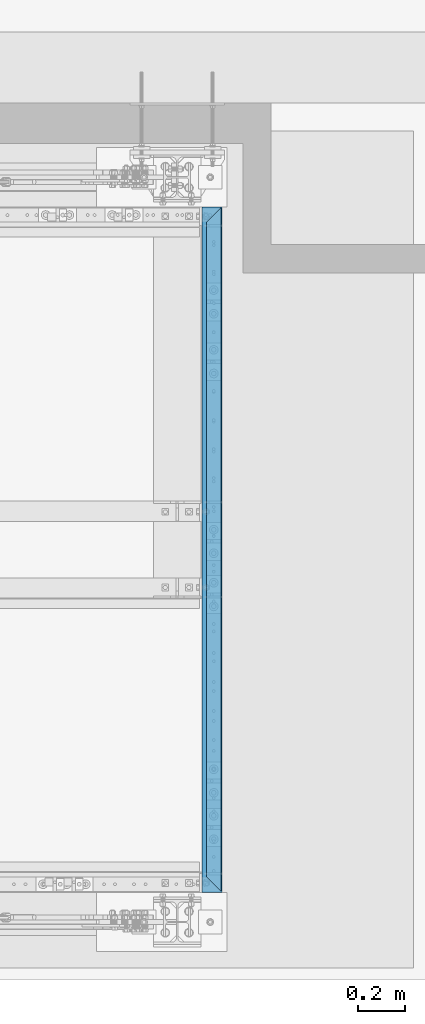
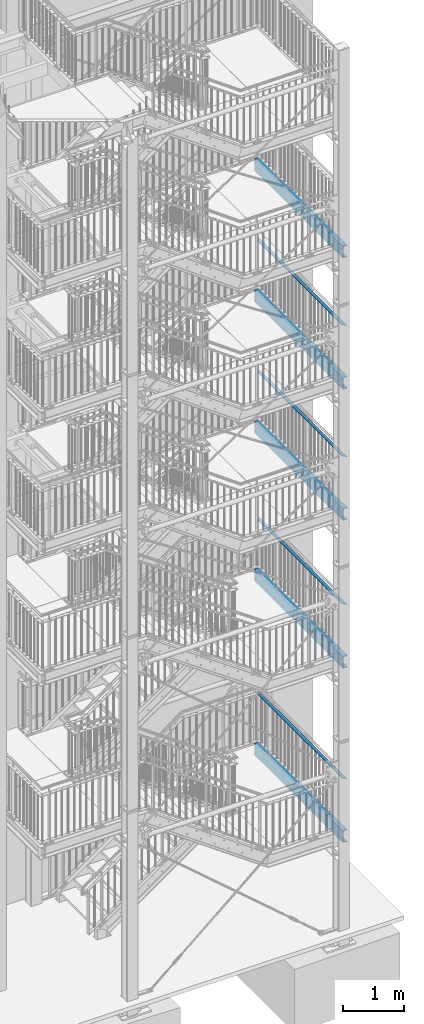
# One storey, part 129 of 825: 9 beams, 70 openings.
"""IFC2X3 building model written with IfcOpenShell, lengths in millimetres."""

from ifc_helpers import new_model, entity, si_unit, converted_unit, frame, frame_2d, origin, origin_with_axes, origin_2d, place, context, project, spatial, rectangle, circle, u_section, extrude, clip, halfspace, material, element, save


model = new_model("IFC2X3")

# Units and contexts
model_context = context("Model", 3, precision=1e-09, world=origin_with_axes())
ifc_project = project(units=[si_unit("LENGTHUNIT", "METRE", prefix="MILLI"), si_unit("AREAUNIT", "SQUARE_METRE"), si_unit("VOLUMEUNIT", "CUBIC_METRE"), converted_unit("PLANEANGLEUNIT", "DEGREE", entity("IfcPlaneAngleMeasure", 0.01745329), si_unit("PLANEANGLEUNIT", "RADIAN"), dimensions=[0, 0, 0, 0, 0, 0, 0])], contexts=[model_context])

# Site, building, storey
site_placement = place(None, origin_with_axes())
site = spatial("IfcSite", under=ifc_project, at=site_placement, Name="Cnopf'sche Kinderklinik", CompositionType="ELEMENT")
building_placement = place(site_placement, origin_with_axes())
building = spatial("IfcBuilding", under=site, at=building_placement, Name="Struktur 1", CompositionType="ELEMENT")
storey_placement = place(building_placement, origin_with_axes())
storey = spatial("IfcBuildingStorey", under=building, at=storey_placement, Name="Default Storey", CompositionType="ELEMENT", Elevation=0.0)

# Beams
ifc_material = material(Name="S235JR")
beam_1_placement = place(None, frame((9021.713402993, 7399.748598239, 12279.3000003), z_axis=(0.0, 1.0, 0.0), x_axis=(0.0, 0.0, -1.0)))
element("IfcBeam", 1, at=beam_1_placement, inside=storey, material=ifc_material, Name="Railing_Kneerail_Landing#1008", ObjectType="Railing_Kneerail_Landing#1008", context=model_context, shape_type="Clipping", body=[
    clip(clip(extrude(rectangle(XDim=10.0, YDim=60.0, at=origin_2d()), origin(), (0.0, 0.0, -1.0), 2916.02325267), halfspace(frame((12279.3000003, 8189.224480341, -8232.23752089), z_axis=(0.0, -0.707106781, -0.707106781), x_axis=(0.0, -0.707106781, 0.707106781)), True)), halfspace(frame((12279.3000003, 2247.487508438, -625.522703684), z_axis=(0.0, -0.707106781, 0.707106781), x_axis=(0.0, 0.707106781, 0.707106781)), True)),
])
beam_2_placement = place(None, frame((9021.713402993, 7399.748598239, 9649.8), z_axis=(0.0, 1.0, 0.0), x_axis=(0.0, 0.0, -1.0)))
element("IfcBeam", 2, at=beam_2_placement, inside=storey, material=ifc_material, Name="Railing_Kneerail_Landing#1011", ObjectType="Railing_Kneerail_Landing#1011", context=model_context, shape_type="Clipping", body=[
    clip(clip(extrude(rectangle(XDim=10.0, YDim=60.0, at=origin_2d()), origin(), (0.0, 0.0, -1.0), 2916.02325267), halfspace(frame((9649.8, 2247.487508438, -625.522703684), z_axis=(0.0, -0.707106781, 0.707106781), x_axis=(0.0, 0.707106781, 0.707106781)), True)), halfspace(frame((9649.8, 8189.224480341, -8232.23752089), z_axis=(0.0, -0.707106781, -0.707106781), x_axis=(0.0, -0.707106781, 0.707106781)), True)),
])
beam_3_placement = place(None, frame((9021.713402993, 7399.748598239, 6688.6947367), z_axis=(0.0, 1.0, 0.0), x_axis=(0.0, 0.0, -1.0)))
element("IfcBeam", 3, at=beam_3_placement, inside=storey, material=ifc_material, Name="Railing_Kneerail_Landing#1008", ObjectType="Railing_Kneerail_Landing#1008", context=model_context, shape_type="Clipping", body=[
    clip(clip(extrude(rectangle(XDim=10.0, YDim=60.0, at=origin_2d()), origin(), (0.0, 0.0, -1.0), 2916.02325267), halfspace(frame((6688.6947367, 8189.224480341, -8232.23752089), z_axis=(0.0, -0.707106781, -0.707106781), x_axis=(0.0, -0.707106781, 0.707106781)), True)), halfspace(frame((6688.6947367, 2247.487508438, -625.522703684), z_axis=(0.0, -0.707106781, 0.707106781), x_axis=(0.0, 0.707106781, 0.707106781)), True)),
])
beam_4_placement = place(None, frame((9021.713402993, 7399.748598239, 3194.8526312), z_axis=(0.0, 1.0, 0.0), x_axis=(0.0, 0.0, -1.0)))
element("IfcBeam", 4, at=beam_4_placement, inside=storey, material=ifc_material, Name="Railing_Kneerail_Landing#1006", ObjectType="Railing_Kneerail_Landing#1006", context=model_context, shape_type="Clipping", body=[
    clip(clip(extrude(rectangle(XDim=10.0, YDim=60.0, at=origin_2d()), origin(), (0.0, 0.0, -1.0), 2916.02325267), halfspace(frame((3194.8526312, 8189.224480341, -8232.23752089), z_axis=(0.0, -0.707106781, -0.707106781), x_axis=(0.0, -0.707106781, 0.707106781)), True)), halfspace(frame((3194.8526312, 2247.487508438, -625.522703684), z_axis=(0.0, -0.707106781, 0.707106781), x_axis=(0.0, 0.707106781, 0.707106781)), True)),
])

# Beam, openings
beam_5_placement = place(None, frame((8994.013402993, 7391.736971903, 2061.0526312), z_axis=(0.0, -1.0, 0.0), x_axis=(1.0, 0.0, 0.0)))
beam_5 = element("IfcBeam", 5, at=beam_5_placement, inside=storey, material=ifc_material, Name="Girder", ObjectType="Girder", context=model_context, shape_type="SweptSolid", body=[
    extrude(u_section(Depth=240.0, FlangeWidth=85.0, WebThickness=9.5, FlangeThickness=13.0, FilletRadius=13.0, EdgeRadius=6.5, FlangeSlope=4.574, at=frame_2d((20.2, 0.0))), origin(), (0.0, 0.0, 1.0), 2900.0),
])
opening_1_placement = place(beam_5_placement, frame((27.7, 120.5, 2471.461175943), z_axis=(0.0, 1.0, 0.0), x_axis=(-1.0, 0.0, 0.0)))
element("IfcOpeningElement", 6, at=opening_1_placement, cuts=beam_5, ObjectType="Opening", context=model_context, shape_type="SweptSolid", body=[
    extrude(circle(Radius=7.001, at=frame_2d((0.0, 7.001), x_axis=(1.0, 0.0))), origin(), (0.0, 0.0, -1.0), 14.0),
])
opening_2_placement = place(beam_5_placement, frame((27.7, 120.5, 2371.461175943), z_axis=(0.0, 1.0, 0.0), x_axis=(-1.0, 0.0, 0.0)))
element("IfcOpeningElement", 7, at=opening_2_placement, cuts=beam_5, ObjectType="Opening", context=model_context, shape_type="SweptSolid", body=[
    extrude(circle(Radius=7.001, at=frame_2d((0.0, 7.001), x_axis=(1.0, 0.0))), origin(), (0.0, 0.0, -1.0), 14.0),
])
opening_3_placement = place(beam_5_placement, frame((27.7, 120.5, 1458.38405822), z_axis=(0.0, 1.0, 0.0), x_axis=(-1.0, 0.0, 0.0)))
element("IfcOpeningElement", 8, at=opening_3_placement, cuts=beam_5, ObjectType="Opening", context=model_context, shape_type="SweptSolid", body=[
    extrude(circle(Radius=7.001, at=frame_2d((0.0, 7.001), x_axis=(1.0, 0.0))), origin(), (0.0, 0.0, -1.0), 14.0),
])
opening_4_placement = place(beam_5_placement, frame((27.7, 120.5, 1358.38405822), z_axis=(0.0, 1.0, 0.0), x_axis=(-1.0, 0.0, 0.0)))
element("IfcOpeningElement", 9, at=opening_4_placement, cuts=beam_5, ObjectType="Opening", context=model_context, shape_type="SweptSolid", body=[
    extrude(circle(Radius=7.001, at=frame_2d((0.0, 7.001), x_axis=(1.0, 0.0))), origin(), (0.0, 0.0, -1.0), 14.0),
])
opening_5_placement = place(beam_5_placement, frame((27.7, 120.5, 445.306940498), z_axis=(0.0, 1.0, 0.0), x_axis=(-1.0, 0.0, 0.0)))
element("IfcOpeningElement", 10, at=opening_5_placement, cuts=beam_5, ObjectType="Opening", context=model_context, shape_type="SweptSolid", body=[
    extrude(circle(Radius=7.001, at=frame_2d((0.0, 7.001), x_axis=(1.0, 0.0))), origin(), (0.0, 0.0, -1.0), 14.0),
])
opening_6_placement = place(beam_5_placement, frame((27.7, 120.5, 345.306940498), z_axis=(0.0, 1.0, 0.0), x_axis=(-1.0, 0.0, 0.0)))
element("IfcOpeningElement", 11, at=opening_6_placement, cuts=beam_5, ObjectType="Opening", context=model_context, shape_type="SweptSolid", body=[
    extrude(circle(Radius=7.001, at=frame_2d((0.0, 7.001), x_axis=(1.0, 0.0))), origin(), (0.0, 0.0, -1.0), 14.0),
])
opening_7_placement = place(beam_5_placement, frame((-12.3, 0.0, 1610.0), z_axis=(-1.0, 0.0, 0.0), x_axis=(0.0, 1.0, 0.0)))
element("IfcOpeningElement", 12, at=opening_7_placement, cuts=beam_5, ObjectType="Opening", context=model_context, shape_type="SweptSolid", body=[
    extrude(circle(Radius=9.001, at=frame_2d((60.0, 0.0), x_axis=(1.0, 0.0))), origin(), (0.0, 0.0, 1.0), 10.5),
])
opening_8_placement = place(beam_5_placement, frame((-12.3, 0.0, 1610.0), z_axis=(-1.0, 0.0, 0.0), x_axis=(0.0, 1.0, 0.0)))
element("IfcOpeningElement", 13, at=opening_8_placement, cuts=beam_5, ObjectType="Opening", context=model_context, shape_type="SweptSolid", body=[
    extrude(circle(Radius=9.001, at=frame_2d((-60.0, 0.0), x_axis=(1.0, 0.0))), origin(), (0.0, 0.0, 1.0), 10.5),
])
opening_9_placement = place(beam_5_placement, frame((-12.3, 0.0, 40.0), z_axis=(-1.0, 0.0, 0.0), x_axis=(0.0, 1.0, 0.0)))
element("IfcOpeningElement", 14, at=opening_9_placement, cuts=beam_5, ObjectType="Opening", context=model_context, shape_type="SweptSolid", body=[
    extrude(circle(Radius=9.001, at=frame_2d((60.0, 0.0), x_axis=(1.0, 0.0))), origin(), (0.0, 0.0, 1.0), 10.5),
])
opening_10_placement = place(beam_5_placement, frame((-12.3, 0.0, 40.0), z_axis=(-1.0, 0.0, 0.0), x_axis=(0.0, 1.0, 0.0)))
element("IfcOpeningElement", 15, at=opening_10_placement, cuts=beam_5, ObjectType="Opening", context=model_context, shape_type="SweptSolid", body=[
    extrude(circle(Radius=9.001, at=frame_2d((-60.0, 0.0), x_axis=(1.0, 0.0))), origin(), (0.0, 0.0, 1.0), 10.5),
])
opening_11_placement = place(beam_5_placement, frame((-12.3, 50.999, 1290.0), z_axis=(1.0, 0.0, 0.0), x_axis=(0.0, 1.0, 0.0)))
element("IfcOpeningElement", 16, at=opening_11_placement, cuts=beam_5, ObjectType="Opening", context=model_context, shape_type="SweptSolid", body=[
    extrude(circle(Radius=9.001, at=frame_2d((9.001, 0.0), x_axis=(1.0, 0.0))), origin(), (0.0, 0.0, -1.0), 10.5),
])
opening_12_placement = place(beam_5_placement, frame((-12.3, -69.001, 1290.0), z_axis=(1.0, 0.0, 0.0), x_axis=(0.0, 1.0, 0.0)))
element("IfcOpeningElement", 17, at=opening_12_placement, cuts=beam_5, ObjectType="Opening", context=model_context, shape_type="SweptSolid", body=[
    extrude(circle(Radius=9.001, at=frame_2d((9.001, 0.0), x_axis=(1.0, 0.0))), origin(), (0.0, 0.0, -1.0), 10.5),
])
opening_13_placement = place(beam_5_placement, frame((-12.3, 50.999, 2860.0), z_axis=(1.0, 0.0, 0.0), x_axis=(0.0, 1.0, 0.0)))
element("IfcOpeningElement", 18, at=opening_13_placement, cuts=beam_5, ObjectType="Opening", context=model_context, shape_type="SweptSolid", body=[
    extrude(circle(Radius=9.001, at=frame_2d((9.001, 0.0), x_axis=(1.0, 0.0))), origin(), (0.0, 0.0, -1.0), 10.5),
])
opening_14_placement = place(beam_5_placement, frame((-12.3, -69.001, 2860.0), z_axis=(1.0, 0.0, 0.0), x_axis=(0.0, 1.0, 0.0)))
element("IfcOpeningElement", 19, at=opening_14_placement, cuts=beam_5, ObjectType="Opening", context=model_context, shape_type="SweptSolid", body=[
    extrude(circle(Radius=9.001, at=frame_2d((9.001, 0.0), x_axis=(1.0, 0.0))), origin(), (0.0, 0.0, -1.0), 10.5),
])

beam_6_placement = place(None, frame((8994.013402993, 7391.736971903, 5554.8947367), z_axis=(0.0, -1.0, 0.0), x_axis=(1.0, 0.0, 0.0)))
beam_6 = element("IfcBeam", 20, at=beam_6_placement, inside=storey, material=ifc_material, Name="Girder", ObjectType="Girder", context=model_context, shape_type="SweptSolid", body=[
    extrude(u_section(Depth=240.0, FlangeWidth=85.0, WebThickness=9.5, FlangeThickness=13.0, FilletRadius=13.0, EdgeRadius=6.5, FlangeSlope=4.574, at=frame_2d((20.2, 0.0))), origin(), (0.0, 0.0, 1.0), 2900.0),
])
opening_15_placement = place(beam_6_placement, frame((27.7, 120.5, 2668.0), z_axis=(0.0, 1.0, 0.0), x_axis=(-1.0, 0.0, 0.0)))
element("IfcOpeningElement", 21, at=opening_15_placement, cuts=beam_6, ObjectType="Opening", context=model_context, shape_type="SweptSolid", body=[
    extrude(circle(Radius=7.001, at=frame_2d((0.0, 7.001), x_axis=(1.0, 0.0))), origin(), (0.0, 0.0, -1.0), 14.0),
])
opening_16_placement = place(beam_6_placement, frame((27.7, 120.5, 2568.0), z_axis=(0.0, 1.0, 0.0), x_axis=(-1.0, 0.0, 0.0)))
element("IfcOpeningElement", 22, at=opening_16_placement, cuts=beam_6, ObjectType="Opening", context=model_context, shape_type="SweptSolid", body=[
    extrude(circle(Radius=7.001, at=frame_2d((0.0, 7.001), x_axis=(1.0, 0.0))), origin(), (0.0, 0.0, -1.0), 14.0),
])
opening_17_placement = place(beam_6_placement, frame((27.7, 120.5, 1682.999857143), z_axis=(0.0, 1.0, 0.0), x_axis=(-1.0, 0.0, 0.0)))
element("IfcOpeningElement", 23, at=opening_17_placement, cuts=beam_6, ObjectType="Opening", context=model_context, shape_type="SweptSolid", body=[
    extrude(circle(Radius=7.001, at=frame_2d((0.0, 7.001), x_axis=(1.0, 0.0))), origin(), (0.0, 0.0, -1.0), 14.0),
])
opening_18_placement = place(beam_6_placement, frame((27.7, 120.5, 1582.999857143), z_axis=(0.0, 1.0, 0.0), x_axis=(-1.0, 0.0, 0.0)))
element("IfcOpeningElement", 24, at=opening_18_placement, cuts=beam_6, ObjectType="Opening", context=model_context, shape_type="SweptSolid", body=[
    extrude(circle(Radius=7.001, at=frame_2d((0.0, 7.001), x_axis=(1.0, 0.0))), origin(), (0.0, 0.0, -1.0), 14.0),
])
opening_19_placement = place(beam_6_placement, frame((27.7, 120.5, 697.999714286), z_axis=(0.0, 1.0, 0.0), x_axis=(-1.0, 0.0, 0.0)))
element("IfcOpeningElement", 25, at=opening_19_placement, cuts=beam_6, ObjectType="Opening", context=model_context, shape_type="SweptSolid", body=[
    extrude(circle(Radius=7.001, at=frame_2d((0.0, 7.001), x_axis=(1.0, 0.0))), origin(), (0.0, 0.0, -1.0), 14.0),
])
opening_20_placement = place(beam_6_placement, frame((27.7, 120.5, 597.999714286), z_axis=(0.0, 1.0, 0.0), x_axis=(-1.0, 0.0, 0.0)))
element("IfcOpeningElement", 26, at=opening_20_placement, cuts=beam_6, ObjectType="Opening", context=model_context, shape_type="SweptSolid", body=[
    extrude(circle(Radius=7.001, at=frame_2d((0.0, 7.001), x_axis=(1.0, 0.0))), origin(), (0.0, 0.0, -1.0), 14.0),
])
opening_21_placement = place(beam_6_placement, frame((-12.3, 50.999, 2860.0), z_axis=(1.0, 0.0, 0.0), x_axis=(0.0, 1.0, 0.0)))
element("IfcOpeningElement", 27, at=opening_21_placement, cuts=beam_6, ObjectType="Opening", context=model_context, shape_type="SweptSolid", body=[
    extrude(circle(Radius=9.001, at=frame_2d((9.001, 0.0), x_axis=(1.0, 0.0))), origin(), (0.0, 0.0, -1.0), 10.5),
])
opening_22_placement = place(beam_6_placement, frame((-12.3, -69.001, 2860.0), z_axis=(1.0, 0.0, 0.0), x_axis=(0.0, 1.0, 0.0)))
element("IfcOpeningElement", 28, at=opening_22_placement, cuts=beam_6, ObjectType="Opening", context=model_context, shape_type="SweptSolid", body=[
    extrude(circle(Radius=9.001, at=frame_2d((9.001, 0.0), x_axis=(1.0, 0.0))), origin(), (0.0, 0.0, -1.0), 10.5),
])
opening_23_placement = place(beam_6_placement, frame((-12.3, 0.0, 1610.0), z_axis=(-1.0, 0.0, 0.0), x_axis=(0.0, 1.0, 0.0)))
element("IfcOpeningElement", 29, at=opening_23_placement, cuts=beam_6, ObjectType="Opening", context=model_context, shape_type="SweptSolid", body=[
    extrude(circle(Radius=9.001, at=frame_2d((60.0, 0.0), x_axis=(1.0, 0.0))), origin(), (0.0, 0.0, 1.0), 10.5),
])
opening_24_placement = place(beam_6_placement, frame((-12.3, 0.0, 1610.0), z_axis=(-1.0, 0.0, 0.0), x_axis=(0.0, 1.0, 0.0)))
element("IfcOpeningElement", 30, at=opening_24_placement, cuts=beam_6, ObjectType="Opening", context=model_context, shape_type="SweptSolid", body=[
    extrude(circle(Radius=9.001, at=frame_2d((-60.0, 0.0), x_axis=(1.0, 0.0))), origin(), (0.0, 0.0, 1.0), 10.5),
])
opening_25_placement = place(beam_6_placement, frame((-12.3, 50.999, 1290.0), z_axis=(1.0, 0.0, 0.0), x_axis=(0.0, 1.0, 0.0)))
element("IfcOpeningElement", 31, at=opening_25_placement, cuts=beam_6, ObjectType="Opening", context=model_context, shape_type="SweptSolid", body=[
    extrude(circle(Radius=9.001, at=frame_2d((9.001, 0.0), x_axis=(1.0, 0.0))), origin(), (0.0, 0.0, -1.0), 10.5),
])
opening_26_placement = place(beam_6_placement, frame((-12.3, -69.001, 1290.0), z_axis=(1.0, 0.0, 0.0), x_axis=(0.0, 1.0, 0.0)))
element("IfcOpeningElement", 32, at=opening_26_placement, cuts=beam_6, ObjectType="Opening", context=model_context, shape_type="SweptSolid", body=[
    extrude(circle(Radius=9.001, at=frame_2d((9.001, 0.0), x_axis=(1.0, 0.0))), origin(), (0.0, 0.0, -1.0), 10.5),
])
opening_27_placement = place(beam_6_placement, frame((-12.3, 0.0, 40.0), z_axis=(-1.0, 0.0, 0.0), x_axis=(0.0, 1.0, 0.0)))
element("IfcOpeningElement", 33, at=opening_27_placement, cuts=beam_6, ObjectType="Opening", context=model_context, shape_type="SweptSolid", body=[
    extrude(circle(Radius=9.001, at=frame_2d((60.0, 0.0), x_axis=(1.0, 0.0))), origin(), (0.0, 0.0, 1.0), 10.5),
])
opening_28_placement = place(beam_6_placement, frame((-12.3, 0.0, 40.0), z_axis=(-1.0, 0.0, 0.0), x_axis=(0.0, 1.0, 0.0)))
element("IfcOpeningElement", 34, at=opening_28_placement, cuts=beam_6, ObjectType="Opening", context=model_context, shape_type="SweptSolid", body=[
    extrude(circle(Radius=9.001, at=frame_2d((-60.0, 0.0), x_axis=(1.0, 0.0))), origin(), (0.0, 0.0, 1.0), 10.5),
])

beam_7_placement = place(None, frame((8994.013402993, 7391.736971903, 8516.0), z_axis=(0.0, -1.0, 0.0), x_axis=(1.0, 0.0, 0.0)))
beam_7 = element("IfcBeam", 35, at=beam_7_placement, inside=storey, material=ifc_material, Name="Girder", ObjectType="Girder", context=model_context, shape_type="SweptSolid", body=[
    extrude(u_section(Depth=240.0, FlangeWidth=85.0, WebThickness=9.5, FlangeThickness=13.0, FilletRadius=13.0, EdgeRadius=6.5, FlangeSlope=4.574, at=frame_2d((20.2, 0.0))), origin(), (0.0, 0.0, 1.0), 2900.0),
])
opening_29_placement = place(beam_7_placement, frame((27.7, 120.5, 2668.0), z_axis=(0.0, 1.0, 0.0), x_axis=(-1.0, 0.0, 0.0)))
element("IfcOpeningElement", 36, at=opening_29_placement, cuts=beam_7, ObjectType="Opening", context=model_context, shape_type="SweptSolid", body=[
    extrude(circle(Radius=7.001, at=frame_2d((0.0, 7.001), x_axis=(1.0, 0.0))), origin(), (0.0, 0.0, -1.0), 14.0),
])
opening_30_placement = place(beam_7_placement, frame((27.7, 120.5, 2568.0), z_axis=(0.0, 1.0, 0.0), x_axis=(-1.0, 0.0, 0.0)))
element("IfcOpeningElement", 37, at=opening_30_placement, cuts=beam_7, ObjectType="Opening", context=model_context, shape_type="SweptSolid", body=[
    extrude(circle(Radius=7.001, at=frame_2d((0.0, 7.001), x_axis=(1.0, 0.0))), origin(), (0.0, 0.0, -1.0), 14.0),
])
opening_31_placement = place(beam_7_placement, frame((27.7, 120.5, 1682.999857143), z_axis=(0.0, 1.0, 0.0), x_axis=(-1.0, 0.0, 0.0)))
element("IfcOpeningElement", 38, at=opening_31_placement, cuts=beam_7, ObjectType="Opening", context=model_context, shape_type="SweptSolid", body=[
    extrude(circle(Radius=7.001, at=frame_2d((0.0, 7.001), x_axis=(1.0, 0.0))), origin(), (0.0, 0.0, -1.0), 14.0),
])
opening_32_placement = place(beam_7_placement, frame((27.7, 120.5, 1582.999857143), z_axis=(0.0, 1.0, 0.0), x_axis=(-1.0, 0.0, 0.0)))
element("IfcOpeningElement", 39, at=opening_32_placement, cuts=beam_7, ObjectType="Opening", context=model_context, shape_type="SweptSolid", body=[
    extrude(circle(Radius=7.001, at=frame_2d((0.0, 7.001), x_axis=(1.0, 0.0))), origin(), (0.0, 0.0, -1.0), 14.0),
])
opening_33_placement = place(beam_7_placement, frame((27.7, 120.5, 697.999714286), z_axis=(0.0, 1.0, 0.0), x_axis=(-1.0, 0.0, 0.0)))
element("IfcOpeningElement", 40, at=opening_33_placement, cuts=beam_7, ObjectType="Opening", context=model_context, shape_type="SweptSolid", body=[
    extrude(circle(Radius=7.001, at=frame_2d((0.0, 7.001), x_axis=(1.0, 0.0))), origin(), (0.0, 0.0, -1.0), 14.0),
])
opening_34_placement = place(beam_7_placement, frame((27.7, 120.5, 597.999714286), z_axis=(0.0, 1.0, 0.0), x_axis=(-1.0, 0.0, 0.0)))
element("IfcOpeningElement", 41, at=opening_34_placement, cuts=beam_7, ObjectType="Opening", context=model_context, shape_type="SweptSolid", body=[
    extrude(circle(Radius=7.001, at=frame_2d((0.0, 7.001), x_axis=(1.0, 0.0))), origin(), (0.0, 0.0, -1.0), 14.0),
])
opening_35_placement = place(beam_7_placement, frame((-12.3, 0.0, 40.0), z_axis=(-1.0, 0.0, 0.0), x_axis=(0.0, 1.0, 0.0)))
element("IfcOpeningElement", 42, at=opening_35_placement, cuts=beam_7, ObjectType="Opening", context=model_context, shape_type="SweptSolid", body=[
    extrude(circle(Radius=9.001, at=frame_2d((60.0, 0.0), x_axis=(1.0, 0.0))), origin(), (0.0, 0.0, 1.0), 10.5),
])
opening_36_placement = place(beam_7_placement, frame((-12.3, 0.0, 40.0), z_axis=(-1.0, 0.0, 0.0), x_axis=(0.0, 1.0, 0.0)))
element("IfcOpeningElement", 43, at=opening_36_placement, cuts=beam_7, ObjectType="Opening", context=model_context, shape_type="SweptSolid", body=[
    extrude(circle(Radius=9.001, at=frame_2d((-60.0, 0.0), x_axis=(1.0, 0.0))), origin(), (0.0, 0.0, 1.0), 10.5),
])
opening_37_placement = place(beam_7_placement, frame((-12.3, 50.999, 1290.0), z_axis=(1.0, 0.0, 0.0), x_axis=(0.0, 1.0, 0.0)))
element("IfcOpeningElement", 44, at=opening_37_placement, cuts=beam_7, ObjectType="Opening", context=model_context, shape_type="SweptSolid", body=[
    extrude(circle(Radius=9.001, at=frame_2d((9.001, 0.0), x_axis=(1.0, 0.0))), origin(), (0.0, 0.0, -1.0), 10.5),
])
opening_38_placement = place(beam_7_placement, frame((-12.3, -69.001, 1290.0), z_axis=(1.0, 0.0, 0.0), x_axis=(0.0, 1.0, 0.0)))
element("IfcOpeningElement", 45, at=opening_38_placement, cuts=beam_7, ObjectType="Opening", context=model_context, shape_type="SweptSolid", body=[
    extrude(circle(Radius=9.001, at=frame_2d((9.001, 0.0), x_axis=(1.0, 0.0))), origin(), (0.0, 0.0, -1.0), 10.5),
])
opening_39_placement = place(beam_7_placement, frame((-12.3, 0.0, 1610.0), z_axis=(-1.0, 0.0, 0.0), x_axis=(0.0, 1.0, 0.0)))
element("IfcOpeningElement", 46, at=opening_39_placement, cuts=beam_7, ObjectType="Opening", context=model_context, shape_type="SweptSolid", body=[
    extrude(circle(Radius=9.001, at=frame_2d((60.0, 0.0), x_axis=(1.0, 0.0))), origin(), (0.0, 0.0, 1.0), 10.5),
])
opening_40_placement = place(beam_7_placement, frame((-12.3, 0.0, 1610.0), z_axis=(-1.0, 0.0, 0.0), x_axis=(0.0, 1.0, 0.0)))
element("IfcOpeningElement", 47, at=opening_40_placement, cuts=beam_7, ObjectType="Opening", context=model_context, shape_type="SweptSolid", body=[
    extrude(circle(Radius=9.001, at=frame_2d((-60.0, 0.0), x_axis=(1.0, 0.0))), origin(), (0.0, 0.0, 1.0), 10.5),
])
opening_41_placement = place(beam_7_placement, frame((-12.3, 50.999, 2860.0), z_axis=(1.0, 0.0, 0.0), x_axis=(0.0, 1.0, 0.0)))
element("IfcOpeningElement", 48, at=opening_41_placement, cuts=beam_7, ObjectType="Opening", context=model_context, shape_type="SweptSolid", body=[
    extrude(circle(Radius=9.001, at=frame_2d((9.001, 0.0), x_axis=(1.0, 0.0))), origin(), (0.0, 0.0, -1.0), 10.5),
])
opening_42_placement = place(beam_7_placement, frame((-12.3, -69.001, 2860.0), z_axis=(1.0, 0.0, 0.0), x_axis=(0.0, 1.0, 0.0)))
element("IfcOpeningElement", 49, at=opening_42_placement, cuts=beam_7, ObjectType="Opening", context=model_context, shape_type="SweptSolid", body=[
    extrude(circle(Radius=9.001, at=frame_2d((9.001, 0.0), x_axis=(1.0, 0.0))), origin(), (0.0, 0.0, -1.0), 10.5),
])

beam_8_placement = place(None, frame((8994.013402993, 7391.736971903, 11145.5000003), z_axis=(0.0, -1.0, 0.0), x_axis=(1.0, 0.0, 0.0)))
beam_8 = element("IfcBeam", 50, at=beam_8_placement, inside=storey, material=ifc_material, Name="Girder", ObjectType="Girder", context=model_context, shape_type="SweptSolid", body=[
    extrude(u_section(Depth=240.0, FlangeWidth=85.0, WebThickness=9.5, FlangeThickness=13.0, FilletRadius=13.0, EdgeRadius=6.5, FlangeSlope=4.574, at=frame_2d((20.2, 0.0))), origin(), (0.0, 0.0, 1.0), 2900.0),
])
opening_43_placement = place(beam_8_placement, frame((27.7, 120.5, 2668.0), z_axis=(0.0, 1.0, 0.0), x_axis=(-1.0, 0.0, 0.0)))
element("IfcOpeningElement", 51, at=opening_43_placement, cuts=beam_8, ObjectType="Opening", context=model_context, shape_type="SweptSolid", body=[
    extrude(circle(Radius=7.001, at=frame_2d((0.0, 7.001), x_axis=(1.0, 0.0))), origin(), (0.0, 0.0, -1.0), 14.0),
])
opening_44_placement = place(beam_8_placement, frame((27.7, 120.5, 2568.0), z_axis=(0.0, 1.0, 0.0), x_axis=(-1.0, 0.0, 0.0)))
element("IfcOpeningElement", 52, at=opening_44_placement, cuts=beam_8, ObjectType="Opening", context=model_context, shape_type="SweptSolid", body=[
    extrude(circle(Radius=7.001, at=frame_2d((0.0, 7.001), x_axis=(1.0, 0.0))), origin(), (0.0, 0.0, -1.0), 14.0),
])
opening_45_placement = place(beam_8_placement, frame((27.7, 120.5, 1682.999857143), z_axis=(0.0, 1.0, 0.0), x_axis=(-1.0, 0.0, 0.0)))
element("IfcOpeningElement", 53, at=opening_45_placement, cuts=beam_8, ObjectType="Opening", context=model_context, shape_type="SweptSolid", body=[
    extrude(circle(Radius=7.001, at=frame_2d((0.0, 7.001), x_axis=(1.0, 0.0))), origin(), (0.0, 0.0, -1.0), 14.0),
])
opening_46_placement = place(beam_8_placement, frame((27.7, 120.5, 1582.999857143), z_axis=(0.0, 1.0, 0.0), x_axis=(-1.0, 0.0, 0.0)))
element("IfcOpeningElement", 54, at=opening_46_placement, cuts=beam_8, ObjectType="Opening", context=model_context, shape_type="SweptSolid", body=[
    extrude(circle(Radius=7.001, at=frame_2d((0.0, 7.001), x_axis=(1.0, 0.0))), origin(), (0.0, 0.0, -1.0), 14.0),
])
opening_47_placement = place(beam_8_placement, frame((27.7, 120.5, 697.999714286), z_axis=(0.0, 1.0, 0.0), x_axis=(-1.0, 0.0, 0.0)))
element("IfcOpeningElement", 55, at=opening_47_placement, cuts=beam_8, ObjectType="Opening", context=model_context, shape_type="SweptSolid", body=[
    extrude(circle(Radius=7.001, at=frame_2d((0.0, 7.001), x_axis=(1.0, 0.0))), origin(), (0.0, 0.0, -1.0), 14.0),
])
opening_48_placement = place(beam_8_placement, frame((27.7, 120.5, 597.999714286), z_axis=(0.0, 1.0, 0.0), x_axis=(-1.0, 0.0, 0.0)))
element("IfcOpeningElement", 56, at=opening_48_placement, cuts=beam_8, ObjectType="Opening", context=model_context, shape_type="SweptSolid", body=[
    extrude(circle(Radius=7.001, at=frame_2d((0.0, 7.001), x_axis=(1.0, 0.0))), origin(), (0.0, 0.0, -1.0), 14.0),
])
opening_49_placement = place(beam_8_placement, frame((-12.3, 50.999, 2860.0), z_axis=(1.0, 0.0, 0.0), x_axis=(0.0, 1.0, 0.0)))
element("IfcOpeningElement", 57, at=opening_49_placement, cuts=beam_8, ObjectType="Opening", context=model_context, shape_type="SweptSolid", body=[
    extrude(circle(Radius=9.001, at=frame_2d((9.001, 0.0), x_axis=(1.0, 0.0))), origin(), (0.0, 0.0, -1.0), 10.5),
])
opening_50_placement = place(beam_8_placement, frame((-12.3, -69.001, 2860.0), z_axis=(1.0, 0.0, 0.0), x_axis=(0.0, 1.0, 0.0)))
element("IfcOpeningElement", 58, at=opening_50_placement, cuts=beam_8, ObjectType="Opening", context=model_context, shape_type="SweptSolid", body=[
    extrude(circle(Radius=9.001, at=frame_2d((9.001, 0.0), x_axis=(1.0, 0.0))), origin(), (0.0, 0.0, -1.0), 10.5),
])
opening_51_placement = place(beam_8_placement, frame((-12.3, 50.999, 1290.0), z_axis=(1.0, 0.0, 0.0), x_axis=(0.0, 1.0, 0.0)))
element("IfcOpeningElement", 59, at=opening_51_placement, cuts=beam_8, ObjectType="Opening", context=model_context, shape_type="SweptSolid", body=[
    extrude(circle(Radius=9.001, at=frame_2d((9.001, 0.0), x_axis=(1.0, 0.0))), origin(), (0.0, 0.0, -1.0), 10.5),
])
opening_52_placement = place(beam_8_placement, frame((-12.3, -69.001, 1290.0), z_axis=(1.0, 0.0, 0.0), x_axis=(0.0, 1.0, 0.0)))
element("IfcOpeningElement", 60, at=opening_52_placement, cuts=beam_8, ObjectType="Opening", context=model_context, shape_type="SweptSolid", body=[
    extrude(circle(Radius=9.001, at=frame_2d((9.001, 0.0), x_axis=(1.0, 0.0))), origin(), (0.0, 0.0, -1.0), 10.5),
])
opening_53_placement = place(beam_8_placement, frame((-12.3, 0.0, 40.0), z_axis=(-1.0, 0.0, 0.0), x_axis=(0.0, 1.0, 0.0)))
element("IfcOpeningElement", 61, at=opening_53_placement, cuts=beam_8, ObjectType="Opening", context=model_context, shape_type="SweptSolid", body=[
    extrude(circle(Radius=9.001, at=frame_2d((60.0, 0.0), x_axis=(1.0, 0.0))), origin(), (0.0, 0.0, 1.0), 10.5),
])
opening_54_placement = place(beam_8_placement, frame((-12.3, 0.0, 40.0), z_axis=(-1.0, 0.0, 0.0), x_axis=(0.0, 1.0, 0.0)))
element("IfcOpeningElement", 62, at=opening_54_placement, cuts=beam_8, ObjectType="Opening", context=model_context, shape_type="SweptSolid", body=[
    extrude(circle(Radius=9.001, at=frame_2d((-60.0, 0.0), x_axis=(1.0, 0.0))), origin(), (0.0, 0.0, 1.0), 10.5),
])
opening_55_placement = place(beam_8_placement, frame((-12.3, 0.0, 1610.0), z_axis=(-1.0, 0.0, 0.0), x_axis=(0.0, 1.0, 0.0)))
element("IfcOpeningElement", 63, at=opening_55_placement, cuts=beam_8, ObjectType="Opening", context=model_context, shape_type="SweptSolid", body=[
    extrude(circle(Radius=9.001, at=frame_2d((60.0, 0.0), x_axis=(1.0, 0.0))), origin(), (0.0, 0.0, 1.0), 10.5),
])
opening_56_placement = place(beam_8_placement, frame((-12.3, 0.0, 1610.0), z_axis=(-1.0, 0.0, 0.0), x_axis=(0.0, 1.0, 0.0)))
element("IfcOpeningElement", 64, at=opening_56_placement, cuts=beam_8, ObjectType="Opening", context=model_context, shape_type="SweptSolid", body=[
    extrude(circle(Radius=9.001, at=frame_2d((-60.0, 0.0), x_axis=(1.0, 0.0))), origin(), (0.0, 0.0, 1.0), 10.5),
])

beam_9_placement = place(None, frame((8994.013402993, 7391.736971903, 13776.5000001), z_axis=(0.0, -1.0, 0.0), x_axis=(1.0, 0.0, 0.0)))
beam_9 = element("IfcBeam", 65, at=beam_9_placement, inside=storey, material=ifc_material, Name="Girder", ObjectType="Girder", context=model_context, shape_type="SweptSolid", body=[
    extrude(u_section(Depth=240.0, FlangeWidth=85.0, WebThickness=9.5, FlangeThickness=13.0, FilletRadius=13.0, EdgeRadius=6.5, FlangeSlope=4.574, at=frame_2d((20.2, 0.0))), origin(), (0.0, 0.0, 1.0), 2900.0),
])
opening_57_placement = place(beam_9_placement, frame((27.7, 120.5, 2668.0), z_axis=(0.0, 1.0, 0.0), x_axis=(-1.0, 0.0, 0.0)))
element("IfcOpeningElement", 66, at=opening_57_placement, cuts=beam_9, ObjectType="Opening", context=model_context, shape_type="SweptSolid", body=[
    extrude(circle(Radius=7.001, at=frame_2d((0.0, 7.001), x_axis=(1.0, 0.0))), origin(), (0.0, 0.0, -1.0), 14.0),
])
opening_58_placement = place(beam_9_placement, frame((27.7, 120.5, 2568.0), z_axis=(0.0, 1.0, 0.0), x_axis=(-1.0, 0.0, 0.0)))
element("IfcOpeningElement", 67, at=opening_58_placement, cuts=beam_9, ObjectType="Opening", context=model_context, shape_type="SweptSolid", body=[
    extrude(circle(Radius=7.001, at=frame_2d((0.0, 7.001), x_axis=(1.0, 0.0))), origin(), (0.0, 0.0, -1.0), 14.0),
])
opening_59_placement = place(beam_9_placement, frame((27.7, 120.5, 1682.999857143), z_axis=(0.0, 1.0, 0.0), x_axis=(-1.0, 0.0, 0.0)))
element("IfcOpeningElement", 68, at=opening_59_placement, cuts=beam_9, ObjectType="Opening", context=model_context, shape_type="SweptSolid", body=[
    extrude(circle(Radius=7.001, at=frame_2d((0.0, 7.001), x_axis=(1.0, 0.0))), origin(), (0.0, 0.0, -1.0), 14.0),
])
opening_60_placement = place(beam_9_placement, frame((27.7, 120.5, 1582.999857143), z_axis=(0.0, 1.0, 0.0), x_axis=(-1.0, 0.0, 0.0)))
element("IfcOpeningElement", 69, at=opening_60_placement, cuts=beam_9, ObjectType="Opening", context=model_context, shape_type="SweptSolid", body=[
    extrude(circle(Radius=7.001, at=frame_2d((0.0, 7.001), x_axis=(1.0, 0.0))), origin(), (0.0, 0.0, -1.0), 14.0),
])
opening_61_placement = place(beam_9_placement, frame((27.7, 120.5, 697.999714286), z_axis=(0.0, 1.0, 0.0), x_axis=(-1.0, 0.0, 0.0)))
element("IfcOpeningElement", 70, at=opening_61_placement, cuts=beam_9, ObjectType="Opening", context=model_context, shape_type="SweptSolid", body=[
    extrude(circle(Radius=7.001, at=frame_2d((0.0, 7.001), x_axis=(1.0, 0.0))), origin(), (0.0, 0.0, -1.0), 14.0),
])
opening_62_placement = place(beam_9_placement, frame((27.7, 120.5, 597.999714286), z_axis=(0.0, 1.0, 0.0), x_axis=(-1.0, 0.0, 0.0)))
element("IfcOpeningElement", 71, at=opening_62_placement, cuts=beam_9, ObjectType="Opening", context=model_context, shape_type="SweptSolid", body=[
    extrude(circle(Radius=7.001, at=frame_2d((0.0, 7.001), x_axis=(1.0, 0.0))), origin(), (0.0, 0.0, -1.0), 14.0),
])
opening_63_placement = place(beam_9_placement, frame((-12.3, 0.0, 1610.0), z_axis=(-1.0, 0.0, 0.0), x_axis=(0.0, 1.0, 0.0)))
element("IfcOpeningElement", 72, at=opening_63_placement, cuts=beam_9, ObjectType="Opening", context=model_context, shape_type="SweptSolid", body=[
    extrude(circle(Radius=9.001, at=frame_2d((60.0, 0.0), x_axis=(1.0, 0.0))), origin(), (0.0, 0.0, 1.0), 10.5),
])
opening_64_placement = place(beam_9_placement, frame((-12.3, 0.0, 1610.0), z_axis=(-1.0, 0.0, 0.0), x_axis=(0.0, 1.0, 0.0)))
element("IfcOpeningElement", 73, at=opening_64_placement, cuts=beam_9, ObjectType="Opening", context=model_context, shape_type="SweptSolid", body=[
    extrude(circle(Radius=9.001, at=frame_2d((-60.0, 0.0), x_axis=(1.0, 0.0))), origin(), (0.0, 0.0, 1.0), 10.5),
])
opening_65_placement = place(beam_9_placement, frame((-12.3, 0.0, 40.0), z_axis=(-1.0, 0.0, 0.0), x_axis=(0.0, 1.0, 0.0)))
element("IfcOpeningElement", 74, at=opening_65_placement, cuts=beam_9, ObjectType="Opening", context=model_context, shape_type="SweptSolid", body=[
    extrude(circle(Radius=9.001, at=frame_2d((60.0, 0.0), x_axis=(1.0, 0.0))), origin(), (0.0, 0.0, 1.0), 10.5),
])
opening_66_placement = place(beam_9_placement, frame((-12.3, 0.0, 40.0), z_axis=(-1.0, 0.0, 0.0), x_axis=(0.0, 1.0, 0.0)))
element("IfcOpeningElement", 75, at=opening_66_placement, cuts=beam_9, ObjectType="Opening", context=model_context, shape_type="SweptSolid", body=[
    extrude(circle(Radius=9.001, at=frame_2d((-60.0, 0.0), x_axis=(1.0, 0.0))), origin(), (0.0, 0.0, 1.0), 10.5),
])
opening_67_placement = place(beam_9_placement, frame((-12.3, 50.999, 2860.0), z_axis=(1.0, 0.0, 0.0), x_axis=(0.0, 1.0, 0.0)))
element("IfcOpeningElement", 76, at=opening_67_placement, cuts=beam_9, ObjectType="Opening", context=model_context, shape_type="SweptSolid", body=[
    extrude(circle(Radius=9.001, at=frame_2d((9.001, 0.0), x_axis=(1.0, 0.0))), origin(), (0.0, 0.0, -1.0), 10.5),
])
opening_68_placement = place(beam_9_placement, frame((-12.3, -69.001, 2860.0), z_axis=(1.0, 0.0, 0.0), x_axis=(0.0, 1.0, 0.0)))
element("IfcOpeningElement", 77, at=opening_68_placement, cuts=beam_9, ObjectType="Opening", context=model_context, shape_type="SweptSolid", body=[
    extrude(circle(Radius=9.001, at=frame_2d((9.001, 0.0), x_axis=(1.0, 0.0))), origin(), (0.0, 0.0, -1.0), 10.5),
])
opening_69_placement = place(beam_9_placement, frame((-12.3, 50.999, 1290.0), z_axis=(1.0, 0.0, 0.0), x_axis=(0.0, 1.0, 0.0)))
element("IfcOpeningElement", 78, at=opening_69_placement, cuts=beam_9, ObjectType="Opening", context=model_context, shape_type="SweptSolid", body=[
    extrude(circle(Radius=9.001, at=frame_2d((9.001, 0.0), x_axis=(1.0, 0.0))), origin(), (0.0, 0.0, -1.0), 10.5),
])
opening_70_placement = place(beam_9_placement, frame((-12.3, -69.001, 1290.0), z_axis=(1.0, 0.0, 0.0), x_axis=(0.0, 1.0, 0.0)))
element("IfcOpeningElement", 79, at=opening_70_placement, cuts=beam_9, ObjectType="Opening", context=model_context, shape_type="SweptSolid", body=[
    extrude(circle(Radius=9.001, at=frame_2d((9.001, 0.0), x_axis=(1.0, 0.0))), origin(), (0.0, 0.0, -1.0), 10.5),
])

save(model, "model.ifc")
